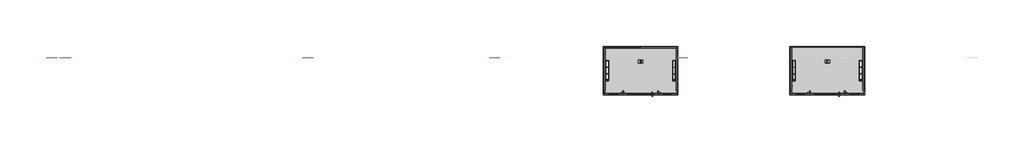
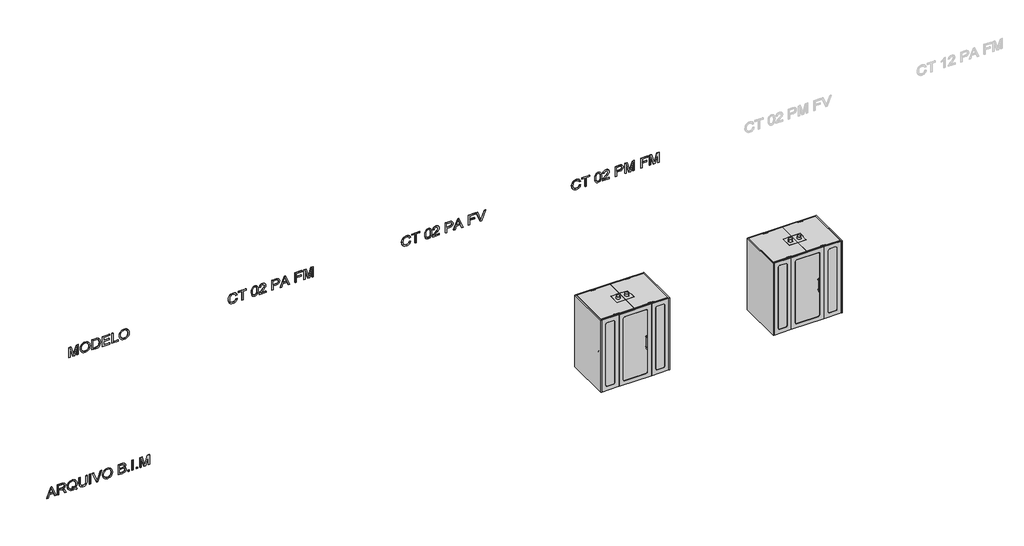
# One storey, part 1 of 2: 5 proxies, 2 furniture elements.
"""IFC4 building model written with IfcOpenShell, lengths in millimetres."""

from ifc_helpers import new_model, si_unit, frame, origin, place, context, project, spatial, polyline, outline, extrude, transform, mapped, element, save
from components import furniture_7d49e289, furniture_7776b8a0, furniture_499643ce, furniture_b8f9ac97

model = new_model("IFC4")

# Units and contexts
model_context = context("Model", 3, world=origin())
ifc_project = project(units=[si_unit("LENGTHUNIT", "METRE", prefix="MILLI")], contexts=[model_context])

# Site, building, storey
site = spatial("IfcSite", under=ifc_project)
building = spatial("IfcBuilding", under=site)
storey = spatial("IfcBuildingStorey", under=building, Name="02 - Marelli - Planta Baixa - Cabine 02 Pessoas", Elevation=-12000.0)

# Proxies
placement = place(None, origin())
element("IfcBuildingElementProxy", 1, Name="300mm Arial", ObjectType="300mm Arial", at=placement, inside=storey, context=model_context, shape_type="SweptSolid", body=[
    extrude(outline(polyline([(-10400.0, -7636.3146377), (-10400.0, -7596.5098058), (-10305.8222092, -7562.076051), (-10305.8222092, -7437.9526659), (-10400.0, -7403.4453347), (-10400.0, -7363.6405028), (-10098.6310696, -7483.9379153), (-10098.6310696, -7516.0172252), (-10400.0, -7636.3146377)]), holes=[polyline([(-10268.1510929, -7548.243688), (-10187.584936, -7518.739552), (-10136.3021859, -7499.9775703), (-10194.0596591, -7478.8611437), (-10268.1510929, -7451.7114525), (-10268.1510929, -7548.243688)])]), frame((0.0, 8778.3159498, 0.0), z_axis=(0.0, 1.0, 0.0), x_axis=(0.0, 0.0, 1.0)), (0.0, 0.0, 1.0), 10.0),
    extrude(outline(polyline([(-10400.0, -7323.3942126), (-10400.0, -7285.7230963), (-10268.1510929, -7285.7230963), (-10268.1510929, -7240.2528817), (-10269.4754681, -7218.4006911), (-10276.649167, -7200.484838), (-10296.183701, -7180.582422), (-10337.5336372, -7152.2555084), (-10400.0, -7113.0392877), (-10400.0, -7069.2613303), (-10318.3301971, -7119.5140108), (-10279.5554348, -7150.0482164), (-10263.4422034, -7171.4589486), (-10253.4542072, -7134.3488523), (-10245.4389783, -7119.9669655), (-10235.4095954, -7108.3671864), (-10210.7982899, -7093.0540983), (-10181.1102129, -7087.9497357), (-10157.2438684, -7091.0307474), (-10135.5296337, -7100.2737825), (-10118.0184507, -7114.6763626), (-10106.7612616, -7133.2360093), (-10100.6636176, -7158.629064), (-10098.6310696, -7193.5318683), (-10098.6310696, -7323.3942126), (-10400.0, -7323.3942126)]), holes=[polyline([(-10230.4799766, -7285.7230963), (-10136.3021859, -7285.7230963), (-10136.3021859, -7191.9131875), (-10139.5579415, -7162.1055488), (-10149.3252085, -7141.5501423), (-10164.1324588, -7129.6031746), (-10182.5081645, -7125.620852), (-10195.8162956, -7127.7085823), (-10208.0759631, -7133.9717732), (-10218.2111121, -7144.254075), (-10225.1456877, -7158.3991377), (-10229.1464044, -7177.1887106), (-10230.4799766, -7201.404543), (-10230.4799766, -7285.7230963)])]), frame((0.0, 8778.3159498, 0.0), z_axis=(0.0, 1.0, 0.0), x_axis=(0.0, 0.0, 1.0)), (0.0, 0.0, 1.0), 10.0),
    extrude(outline(polyline([(-10363.8739881, -6795.6307023), (-10340.3479345, -6777.1814202), (-10313.0326963, -6764.0664271), (-10281.9650618, -6756.2305406), (-10247.1818192, -6753.6185784), (-10205.3536364, -6757.9227978), (-10168.0136138, -6770.8354558), (-10136.8172207, -6791.9610794), (-10113.4199258, -6820.9041954), (-10098.7966164, -6855.7702114), (-10093.92218, -6894.6645354), (-10098.6862519, -6933.2553567), (-10112.9784674, -6967.9466288), (-10136.3849593, -6996.93573), (-10168.4918604, -7018.4200386), (-10206.944726, -7031.7189727), (-10249.3891112, -7036.1519507), (-10291.7967082, -7031.7097756), (-10329.6977507, -7018.3832504), (-10361.3539964, -6996.8161684), (-10385.0272028, -6967.6523232), (-10399.7884679, -6932.8322924), (-10404.7088895, -6894.2966534), (-10400.4414584, -6855.9449554), (-10387.639165, -6821.0881364), (-10408.47968, -6790.1308665), (-10422.8822601, -6759.063232), (-10395.2911105, -6748.9096889), (-10382.4704229, -6771.2953083), (-10363.8739881, -6795.6307023)]), holes=[polyline([(-10313.7684603, -6883.9223811), (-10342.6104088, -6893.6344658), (-10349.287467, -6873.2721974), (-10359.3122513, -6853.9767867), (-10365.1063928, -6873.6032912), (-10367.0377732, -6894.5173826), (-10365.1362832, -6916.2385151), (-10359.431813, -6935.9316982), (-10349.9243627, -6953.5969318), (-10336.6139322, -6969.2342158), (-10319.748842, -6982.0296115), (-10299.5774124, -6991.1691798), (-10276.0996433, -6996.6529208), (-10249.3155348, -6998.4808344), (-10221.8140564, -6996.6322274), (-10197.9500112, -6991.0864063), (-10177.7233993, -6981.8433712), (-10161.1342205, -6968.903122), (-10148.2100662, -6953.1577726), (-10138.9785274, -6935.4994369), (-10133.4396041, -6915.9281147), (-10131.5932963, -6894.4438062), (-10135.2445251, -6865.9605427), (-10146.1982115, -6840.4019411), (-10163.7645768, -6819.2027411), (-10187.2538422, -6803.7976826), (-10215.9394408, -6794.4166917), (-10249.0948056, -6791.2896947), (-10278.2678478, -6793.5015852), (-10303.5413409, -6800.1372567), (-10324.9152848, -6811.1967092), (-10342.3896796, -6826.6799427), (-10325.7430193, -6852.2477413), (-10313.7684603, -6883.9223811)])]), frame((0.0, 8778.3159498, 0.0), z_axis=(0.0, 1.0, 0.0), x_axis=(0.0, 0.0, 1.0)), (0.0, 0.0, 1.0), 10.0),
    extrude(outline(polyline([(-10098.6310696, -6499.3385434), (-10271.1677253, -6499.3385434), (-10318.3301971, -6504.1026152), (-10335.0688279, -6510.057705), (-10347.2457219, -6518.3948307), (-10355.9047444, -6529.5278596), (-10362.0897604, -6543.8706589), (-10367.0377732, -6582.1855687), (-10364.5361757, -6606.3554158), (-10357.031383, -6626.4785609), (-10344.9188683, -6641.9112106), (-10328.5941047, -6652.0095714), (-10305.0220659, -6657.5829836), (-10271.1677253, -6659.4407877), (-10098.6310696, -6659.4407877), (-10098.6310696, -6697.111904), (-10272.4921005, -6697.111904), (-10315.2675795, -6694.2516215), (-10347.9446977, -6685.6707739), (-10372.3076828, -6670.4036711), (-10390.1407625, -6647.4846228), (-10401.0668578, -6616.904432), (-10404.7088895, -6578.6539015), (-10400.5242318, -6539.5480454), (-10387.9702588, -6508.7563224), (-10368.7484245, -6486.2235502), (-10344.5601833, -6471.8945465), (-10313.2074403, -6464.2242069), (-10272.4921005, -6461.6674271), (-10098.6310696, -6461.6674271), (-10098.6310696, -6499.3385434)])), frame((0.0, 8778.3159498, 0.0), z_axis=(0.0, 1.0, 0.0), x_axis=(0.0, 0.0, 1.0)), (0.0, 0.0, 1.0), 10.0),
    extrude(outline(polyline([(-6353.3629677, 8778.3159498), (-6391.034084, 8778.3159498), (-6391.034084, 8788.3159498), (-6353.3629677, 8788.3159498), (-6353.3629677, 8778.3159498)])), frame((0.0, 0.0, -10400.0), z_axis=(0.0, 0.0, 1.0), x_axis=(1.0, 0.0, 0.0)), (0.0, 0.0, 1.0), 301.3689304),
    extrude(outline(polyline([(-10400.0, -6188.9932922), (-10400.0, -6150.0713771), (-10098.6310696, -6035.2186183), (-10098.6310696, -6075.5384849), (-10315.7550231, -6156.0310655), (-10364.6833285, -6172.0707205), (-10315.7550231, -6188.3311046), (-10098.6310696, -6268.602956), (-10098.6310696, -6308.9228227), (-10400.0, -6188.9932922)])), frame((0.0, 8778.3159498, 0.0), z_axis=(0.0, 1.0, 0.0), x_axis=(0.0, 0.0, 1.0)), (0.0, 0.0, 1.0), 10.0),
    extrude(outline(polyline([(-10253.2886603, -6014.3229209), (-10291.8334964, -6010.0187016), (-10328.2997991, -5997.1060436), (-10359.992833, -5975.8424642), (-10384.2178624, -5946.485481), (-10399.5861328, -5910.8377157), (-10404.7088895, -5870.70179), (-10400.0735764, -5832.892718), (-10386.167637, -5797.7507904), (-10363.2485887, -5767.7868019), (-10331.5739489, -5745.5115471), (-10293.1118863, -5731.6883811), (-10249.8305696, -5727.0806591), (-10207.1194699, -5731.4584548), (-10169.1908362, -5744.5918421), (-10137.5713787, -5766.0761506), (-10113.7878078, -5795.5067102), (-10098.8885869, -5830.9521404), (-10093.92218, -5870.4810608), (-10096.5663319, -5900.7715446), (-10104.4987874, -5928.1465636), (-10117.7195466, -5952.6061177), (-10136.2286095, -5974.1502071), (-10159.4097737, -5991.7257694), (-10186.6468369, -6004.2797425), (-10217.9397991, -6011.8121263), (-10253.2886603, -6014.3229209)]), holes=[polyline([(-10253.6565423, -5976.6518046), (-10223.1200375, -5974.6882345), (-10197.2878236, -5968.797524), (-10176.1599008, -5958.9796733), (-10159.736269, -5945.2346822), (-10147.4237184, -5928.7673644), (-10138.6290395, -5910.7825334), (-10133.3522321, -5891.2801891), (-10131.5932963, -5870.2603316), (-10135.2445251, -5841.0964864), (-10146.1982115, -5814.9676677), (-10163.7921679, -5793.3086153), (-10187.3642068, -5777.5540688), (-10216.1877611, -5767.9523488), (-10249.536264, -5764.7517754), (-10276.0743514, -5766.6210758), (-10299.4026684, -5772.228977), (-10319.521215, -5781.5754789), (-10336.4299912, -5794.6605816), (-10349.8208959, -5810.642755), (-10359.3858277, -5828.6804691), (-10365.1247869, -5848.7737238), (-10367.0377732, -5870.9225192), (-10365.143181, -5892.6988341), (-10359.4594041, -5912.557564), (-10349.9864428, -5930.4987091), (-10336.7242968, -5946.5222692), (-10320.1650085, -5959.703941), (-10300.80062, -5969.1194208), (-10278.6311313, -5974.7687087), (-10253.6565423, -5976.6518046)])]), frame((0.0, 8778.3159498, 0.0), z_axis=(0.0, 1.0, 0.0), x_axis=(0.0, 0.0, 1.0)), (0.0, 0.0, 1.0), 10.0),
    extrude(outline(polyline([(-10400.0, -5557.5606357), (-10400.0, -5443.4436408), (-10394.8128639, -5395.1407348), (-10388.3933231, -5377.10532), (-10379.5089729, -5362.3624491), (-10367.2401083, -5350.3235108), (-10350.6670244, -5340.399894), (-10331.1784758, -5333.7504269), (-10310.1632168, -5331.5339379), (-10284.944906, -5334.7804965), (-10263.2950506, -5344.5201723), (-10246.3356906, -5360.2931129), (-10235.1888662, -5381.6394656), (-10223.4442335, -5363.7695977), (-10208.5174215, -5351.0684718), (-10191.456894, -5343.4809057), (-10173.3111146, -5340.951717), (-10153.5926396, -5343.9591523), (-10134.7570815, -5352.9814582), (-10118.7450176, -5367.3104619), (-10107.4970256, -5386.2379906), (-10100.8475586, -5410.9320695), (-10098.6310696, -5442.560724), (-10098.6310696, -5557.5606357), (-10400.0, -5557.5606357)]), holes=[polyline([(-10221.0621975, -5519.8895194), (-10136.3021859, -5519.8895194), (-10136.3021859, -5456.3195106), (-10140.2385232, -5407.9062401), (-10145.8395266, -5395.4166463), (-10154.769862, -5386.2012024), (-10166.2109921, -5380.5174255), (-10179.3443793, -5378.6228333), (-10192.8732397, -5380.6553813), (-10203.8821084, -5386.7530254), (-10212.2422267, -5396.8605832), (-10217.824836, -5410.9228724), (-10221.0621975, -5451.0955863), (-10221.0621975, -5519.8895194)]), polyline([(-10362.3288837, -5519.8895194), (-10258.7333139, -5519.8895194), (-10258.7333139, -5446.3131204), (-10259.9933097, -5419.4853259), (-10263.7732972, -5399.776048), (-10270.6618875, -5385.8609115), (-10281.247692, -5376.4155413), (-10294.7857494, -5371.007676), (-10310.5310988, -5369.2050542), (-10324.0875503, -5370.7409615), (-10335.9149564, -5375.3486835), (-10352.6535872, -5391.0204565), (-10360.8573557, -5414.6752688), (-10362.3288837, -5442.6343004), (-10362.3288837, -5519.8895194)])]), frame((0.0, 8778.3159498, 0.0), z_axis=(0.0, 1.0, 0.0), x_axis=(0.0, 0.0, 1.0)), (0.0, 0.0, 1.0), 10.0),
    extrude(outline(polyline([(-5237.3561471, 8778.3159498), (-5275.0272634, 8778.3159498), (-5275.0272634, 8788.3159498), (-5237.3561471, 8788.3159498), (-5237.3561471, 8778.3159498)])), frame((0.0, 0.0, -10400.0), z_axis=(0.0, 0.0, 1.0), x_axis=(1.0, 0.0, 0.0)), (0.0, 0.0, 1.0), 37.6711163),
    extrude(outline(polyline([(-5119.6339087, 8778.3159498), (-5157.305025, 8778.3159498), (-5157.305025, 8788.3159498), (-5119.6339087, 8788.3159498), (-5119.6339087, 8778.3159498)])), frame((0.0, 0.0, -10400.0), z_axis=(0.0, 0.0, 1.0), x_axis=(1.0, 0.0, 0.0)), (0.0, 0.0, 1.0), 301.3689304),
    extrude(outline(polyline([(-5001.9116702, 8778.3159498), (-5039.5827865, 8778.3159498), (-5039.5827865, 8788.3159498), (-5001.9116702, 8788.3159498), (-5001.9116702, 8778.3159498)])), frame((0.0, 0.0, -10400.0), z_axis=(0.0, 0.0, 1.0), x_axis=(1.0, 0.0, 0.0)), (0.0, 0.0, 1.0), 37.6711163),
    extrude(outline(polyline([(-10400.0, -4926.5694376), (-10400.0, -4888.8983213), (-10136.3021859, -4888.8983213), (-10400.0, -4813.1882067), (-10400.0, -4762.1261857), (-10136.3021859, -4686.4160711), (-10400.0, -4686.4160711), (-10400.0, -4648.7449548), (-10098.6310696, -4648.7449548), (-10098.6310696, -4713.5657624), (-10307.3673136, -4774.1927152), (-10355.4127022, -4787.6571962), (-10311.0461336, -4800.0916076), (-10098.6310696, -4861.74863), (-10098.6310696, -4926.5694376), (-10400.0, -4926.5694376)])), frame((0.0, 8778.3159498, 0.0), z_axis=(0.0, 1.0, 0.0), x_axis=(0.0, 0.0, 1.0)), (0.0, 0.0, 1.0), 10.0),
])
element("IfcBuildingElementProxy", 2, Name="300mm Arial", ObjectType="300mm Arial", at=placement, inside=storey, context=model_context, shape_type="SweptSolid", body=[
    extrude(outline(polyline([(-6300.0, -6993.7719449), (-6300.0, -6956.1008286), (-6036.3021859, -6956.1008286), (-6300.0, -6880.390714), (-6300.0, -6829.328693), (-6036.3021859, -6753.6185784), (-6300.0, -6753.6185784), (-6300.0, -6715.9474621), (-5998.6310696, -6715.9474621), (-5998.6310696, -6780.7682697), (-6207.3673136, -6841.3952225), (-6255.4127022, -6854.8597035), (-6211.0461336, -6867.2941149), (-5998.6310696, -6928.9511373), (-5998.6310696, -6993.7719449), (-6300.0, -6993.7719449)])), frame((0.0, 8778.3159498, 0.0), z_axis=(0.0, 1.0, 0.0), x_axis=(0.0, 0.0, 1.0)), (0.0, 0.0, 1.0), 10.0),
    extrude(outline(polyline([(-6153.2886603, -6664.1496772), (-6191.8334964, -6659.8454579), (-6228.2997991, -6646.9327998), (-6259.992833, -6625.6692205), (-6284.2178624, -6596.3122373), (-6299.5861328, -6560.664472), (-6304.7088895, -6520.5285463), (-6300.0735764, -6482.7194742), (-6286.167637, -6447.5775466), (-6263.2485887, -6417.6135581), (-6231.5739489, -6395.3383033), (-6193.1118863, -6381.5151374), (-6149.8305696, -6376.9074154), (-6107.1194699, -6381.2852111), (-6069.1908362, -6394.4185983), (-6037.5713787, -6415.9029069), (-6013.7878078, -6445.3334665), (-5998.8885869, -6480.7788967), (-5993.92218, -6520.3078171), (-5996.5663319, -6550.5983009), (-6004.4987874, -6577.9733198), (-6017.7195466, -6602.432874), (-6036.2286095, -6623.9769633), (-6059.4097737, -6641.5525257), (-6086.6468369, -6654.1064987), (-6117.9397991, -6661.6388826), (-6153.2886603, -6664.1496772)]), holes=[polyline([(-6153.6565423, -6626.4785609), (-6123.1200375, -6624.5149908), (-6097.2878236, -6618.6242803), (-6076.1599008, -6608.8064296), (-6059.736269, -6595.0614385), (-6047.4237184, -6578.5941207), (-6038.6290395, -6560.6092897), (-6033.3522321, -6541.1069454), (-6031.5932963, -6520.0870879), (-6035.2445251, -6490.9232427), (-6046.1982115, -6464.794424), (-6063.7921679, -6443.1353716), (-6087.3642068, -6427.3808251), (-6116.1877611, -6417.779105), (-6149.536264, -6414.5785317), (-6176.0743514, -6416.4478321), (-6199.4026684, -6422.0557332), (-6219.521215, -6431.4022352), (-6236.4299912, -6444.4873379), (-6249.8208959, -6460.4695113), (-6259.3858277, -6478.5072254), (-6265.1247869, -6498.6004801), (-6267.0377732, -6520.7492755), (-6265.143181, -6542.5255903), (-6259.4594041, -6562.3843203), (-6249.9864428, -6580.3254653), (-6236.7242968, -6596.3490255), (-6220.1650085, -6609.5306972), (-6200.80062, -6618.9461771), (-6178.6311313, -6624.5954649), (-6153.6565423, -6626.4785609)])]), frame((0.0, 8778.3159498, 0.0), z_axis=(0.0, 1.0, 0.0), x_axis=(0.0, 0.0, 1.0)), (0.0, 0.0, 1.0), 10.0),
    extrude(outline(polyline([(-6300.0, -6325.1096305), (-6300.0, -6216.1429835), (-6294.8496521, -6167.6929247), (-6288.4944906, -6148.1491937), (-6279.7297021, -6131.6772774), (-6267.911493, -6117.3298796), (-6252.3960698, -6104.1597042), (-6232.7419742, -6092.7185741), (-6208.5077478, -6083.5583124), (-6180.0428784, -6077.5434418), (-6147.696854, -6075.5384849), (-6109.6210675, -6078.499935), (-6076.0334413, -6087.3842852), (-6047.4857985, -6102.2283237), (-6024.529962, -6123.0688387), (-6011.3413925, -6143.3391366), (-6002.9720771, -6167.3618309), (-5998.6310696, -6221.1461786), (-5998.6310696, -6325.1096305), (-6300.0, -6325.1096305)]), holes=[polyline([(-6262.3288837, -6287.4385141), (-6036.3021859, -6287.4385141), (-6036.3021859, -6221.8083662), (-6037.810502, -6190.06015), (-6042.3354506, -6168.3919005), (-6054.9170148, -6147.10073), (-6075.7391357, -6129.2860444), (-6106.0526121, -6117.228712), (-6147.1082428, -6113.2096012), (-6178.0931038, -6115.2605434), (-6204.0931639, -6121.4133697), (-6225.2003933, -6131.245016), (-6241.5067628, -6144.332418), (-6250.3175366, -6156.5093121), (-6256.8842302, -6172.2914497), (-6260.9677203, -6193.2055411), (-6262.3288837, -6220.7782966), (-6262.3288837, -6287.4385141)])]), frame((0.0, 8778.3159498, 0.0), z_axis=(0.0, 1.0, 0.0), x_axis=(0.0, 0.0, 1.0)), (0.0, 0.0, 1.0), 10.0),
    extrude(outline(polyline([(-6300.0, -6023.7407), (-6300.0, -5802.4228917), (-6262.3288837, -5802.4228917), (-6262.3288837, -5986.0695837), (-6163.4422034, -5986.0695837), (-6163.4422034, -5816.5495603), (-6125.7710871, -5816.5495603), (-6125.7710871, -5986.0695837), (-6036.3021859, -5986.0695837), (-6036.3021859, -5807.1317812), (-5998.6310696, -5807.1317812), (-5998.6310696, -6023.7407), (-6300.0, -6023.7407)])), frame((0.0, 8778.3159498, 0.0), z_axis=(0.0, 1.0, 0.0), x_axis=(0.0, 0.0, 1.0)), (0.0, 0.0, 1.0), 10.0),
    extrude(outline(polyline([(-6300.0, -5745.9162172), (-6300.0, -5557.5606357), (-6262.3288837, -5557.5606357), (-6262.3288837, -5708.2451009), (-5998.6310696, -5708.2451009), (-5998.6310696, -5745.9162172), (-6300.0, -5745.9162172)])), frame((0.0, 8778.3159498, 0.0), z_axis=(0.0, 1.0, 0.0), x_axis=(0.0, 0.0, 1.0)), (0.0, 0.0, 1.0), 10.0),
    extrude(outline(polyline([(-6153.2886603, -5529.3072985), (-6191.8334964, -5525.0030791), (-6228.2997991, -5512.0904211), (-6259.992833, -5490.8268418), (-6284.2178624, -5461.4698586), (-6299.5861328, -5425.8220932), (-6304.7088895, -5385.6861676), (-6300.0735764, -5347.8770955), (-6286.167637, -5312.7351679), (-6263.2485887, -5282.7711794), (-6231.5739489, -5260.4959246), (-6193.1118863, -5246.6727586), (-6149.8305696, -5242.0650367), (-6107.1194699, -5246.4428324), (-6069.1908362, -5259.5762196), (-6037.5713787, -5281.0605281), (-6013.7878078, -5310.4910878), (-5998.8885869, -5345.936518), (-5993.92218, -5385.4654384), (-5996.5663319, -5415.7559222), (-6004.4987874, -5443.1309411), (-6017.7195466, -5467.5904953), (-6036.2286095, -5489.1345846), (-6059.4097737, -5506.7101469), (-6086.6468369, -5519.26412), (-6117.9397991, -5526.7965039), (-6153.2886603, -5529.3072985)]), holes=[polyline([(-6153.6565423, -5491.6361822), (-6123.1200375, -5489.672612), (-6097.2878236, -5483.7819016), (-6076.1599008, -5473.9640508), (-6059.736269, -5460.2190598), (-6047.4237184, -5443.751742), (-6038.6290395, -5425.7669109), (-6033.3522321, -5406.2645667), (-6031.5932963, -5385.2447092), (-6035.2445251, -5356.080864), (-6046.1982115, -5329.9520453), (-6063.7921679, -5308.2929928), (-6087.3642068, -5292.5384464), (-6116.1877611, -5282.9367263), (-6149.536264, -5279.736153), (-6176.0743514, -5281.6054533), (-6199.4026684, -5287.2133545), (-6219.521215, -5296.5598565), (-6236.4299912, -5309.6449592), (-6249.8208959, -5325.6271326), (-6259.3858277, -5343.6648467), (-6265.1247869, -5363.7581014), (-6267.0377732, -5385.9068968), (-6265.143181, -5407.6832116), (-6259.4594041, -5427.5419416), (-6249.9864428, -5445.4830866), (-6236.7242968, -5461.5066468), (-6220.1650085, -5474.6883185), (-6200.80062, -5484.1037983), (-6178.6311313, -5489.7530862), (-6153.6565423, -5491.6361822)])]), frame((0.0, 8778.3159498, 0.0), z_axis=(0.0, 1.0, 0.0), x_axis=(0.0, 0.0, 1.0)), (0.0, 0.0, 1.0), 10.0),
])
element("IfcBuildingElementProxy", 3, Name="300mm Arial", ObjectType="300mm Arial", at=placement, inside=storey, context=model_context, shape_type="SweptSolid", body=[
    extrude(outline(polyline([(-6192.872763, -2142.1019653), (-6225.136014, -2154.2880564), (-6248.3493679, -2174.0709107), (-6262.3656719, -2200.2733058), (-6267.0377732, -2231.7180194), (-6263.6072736, -2258.6929667), (-6253.3157748, -2283.6997453), (-6236.0897004, -2304.5586544), (-6211.855474, -2319.0899932), (-6181.7627268, -2327.6156585), (-6146.96109, -2330.4575469), (-6118.5422059, -2328.0571169), (-6090.9694503, -2320.8558268), (-6066.5788741, -2307.7316366), (-6047.7065277, -2287.5625062), (-6035.6216042, -2260.9830321), (-6031.5932963, -2228.6278106), (-6035.226131, -2200.5584144), (-6046.1246351, -2177.7129425), (-6064.9693903, -2159.8706657), (-6092.4409783, -2146.8108549), (-6083.4646576, -2109.1397386), (-6045.6463885, -2125.7772018), (-6030.3241034, -2137.5793161), (-6017.3930513, -2151.7036854), (-6007.1245451, -2167.8835954), (-5999.7898978, -2185.8523316), (-5993.92218, -2227.1562826), (-5998.4563256, -2265.0113399), (-6012.0587624, -2299.5554593), (-6034.3983965, -2328.6825162), (-6065.1441343, -2350.2863864), (-6103.0911621, -2363.668094), (-6147.0346664, -2368.1286632), (-6188.6973024, -2364.1831288), (-6227.6008233, -2352.3465256), (-6260.6918088, -2332.9591444), (-6284.9168382, -2306.3612762), (-6299.7608767, -2271.660807), (-6304.7088895, -2227.965623), (-6303.0741139, -2205.5432154), (-6298.1697871, -2184.9234296), (-6289.995909, -2166.1062655), (-6278.5524797, -2149.0917233), (-6263.995849, -2134.2154951), (-6246.4823668, -2121.8132733), (-6226.012033, -2111.885058), (-6202.5848477, -2104.430849), (-6192.872763, -2142.1019653)])), frame((0.0, 8778.3159498, 0.0), z_axis=(0.0, 1.0, 0.0), x_axis=(0.0, 0.0, 1.0)), (0.0, 0.0, 1.0), 10.0),
    extrude(outline(polyline([(-6300.0, -1977.2908315), (-6300.0, -1939.6197152), (-6036.3021859, -1939.6197152), (-6036.3021859, -1840.7330349), (-5998.6310696, -1840.7330349), (-5998.6310696, -2076.1775118), (-6036.3021859, -2076.1775118), (-6036.3021859, -1977.2908315), (-6300.0, -1977.2908315)])), frame((0.0, 8778.3159498, 0.0), z_axis=(0.0, 1.0, 0.0), x_axis=(0.0, 0.0, 1.0)), (0.0, 0.0, 1.0), 10.0),
    extrude(outline(polyline([(-6151.7435559, -1694.7574592), (-6191.1851044, -1692.881261), (-6225.0440435, -1687.2526665), (-6253.3203733, -1677.8716756), (-6276.0140939, -1664.7382884), (-6288.568067, -1651.0530782), (-6297.5351906, -1635.0134232), (-6302.9154648, -1616.6193234), (-6304.7088895, -1595.8707789), (-6300.5794141, -1565.4193468), (-6288.190988, -1540.7252678), (-6267.4056552, -1521.6229952), (-6238.0854602, -1507.9469821), (-6199.7061711, -1499.7248195), (-6151.7435559, -1496.9840986), (-6111.7823742, -1498.6947499), (-6080.9262719, -1503.8267037), (-6056.6276661, -1511.6625902), (-6036.3389741, -1521.4850395), (-6020.1981515, -1534.489668), (-6008.3431542, -1551.8720923), (-6001.0590907, -1572.657425), (-5998.6310696, -1595.8707789), (-6002.7329538, -1626.1566642), (-6015.0386065, -1650.7955608), (-6035.7411658, -1669.9254245), (-6065.0337697, -1683.6842112), (-6103.5050293, -1691.9891472), (-6151.7435559, -1694.7574592)]), holes=[polyline([(-6151.6699795, -1657.0863429), (-6093.1767423, -1652.5246062), (-6072.097104, -1646.8224352), (-6056.4621192, -1638.8393959), (-6041.3421692, -1619.8934732), (-6036.3021859, -1596.3122373), (-6042.0227509, -1571.4066262), (-6059.184446, -1551.7249395), (-6073.5456393, -1544.256935), (-6093.7469594, -1538.9226461), (-6151.6699795, -1534.6552149), (-6210.8346014, -1539.0697988), (-6231.0980016, -1544.5880288), (-6245.1487945, -1552.3135507), (-6261.5655286, -1572.0320256), (-6267.0377732, -1595.8707789), (-6261.5839227, -1619.7095322), (-6245.2223709, -1639.4280071), (-6231.1945706, -1647.153529), (-6210.9265719, -1652.671759), (-6151.6699795, -1657.0863429)])]), frame((0.0, 8778.3159498, 0.0), z_axis=(0.0, 1.0, 0.0), x_axis=(0.0, 0.0, 1.0)), (0.0, 0.0, 1.0), 10.0),
    extrude(outline(polyline([(-6262.3288837, -1270.9574008), (-6262.3288837, -1418.9195392), (-6243.1622317, -1401.923391), (-6206.9258552, -1358.586892), (-6177.9091629, -1325.8913797), (-6155.3120113, -1304.6186033), (-6136.3844826, -1291.2736839), (-6118.376659, -1282.3617426), (-6100.672338, -1277.3401534), (-6082.6553172, -1275.6662903), (-6065.5028192, -1277.2182925), (-6049.8034551, -1281.874299), (-6035.5572248, -1289.6343098), (-6022.7641284, -1300.498325), (-6012.2059152, -1314.0248861), (-6004.6643343, -1329.7725347), (-6000.1393857, -1347.7412709), (-5998.6310696, -1367.9310947), (-6004.057329, -1405.8137431), (-6010.8401533, -1421.5475962), (-6020.3361073, -1435.1431352), (-6032.4164323, -1446.3428427), (-6046.9523696, -1454.8892013), (-6083.3910812, -1464.0218718), (-6088.0999708, -1426.3507555), (-6066.4501154, -1422.2764624), (-6050.0609725, -1410.4950415), (-6039.7418825, -1392.2388975), (-6036.3021859, -1368.7404351), (-6039.824656, -1346.3640127), (-6050.3920663, -1328.6780858), (-6066.0730363, -1317.1725764), (-6084.9361856, -1313.3374066), (-6105.9790357, -1317.4025027), (-6127.6104971, -1329.5977908), (-6154.2635476, -1353.9883671), (-6190.3711654, -1394.6393275), (-6213.4281695, -1422.1385067), (-6234.0387583, -1441.8017993), (-6253.7296421, -1455.395039), (-6274.0275311, -1464.6840594), (-6300.0, -1468.7307614), (-6300.0, -1270.9574008), (-6262.3288837, -1270.9574008)])), frame((0.0, 8778.3159498, 0.0), z_axis=(0.0, 1.0, 0.0), x_axis=(0.0, 0.0, 1.0)), (0.0, 0.0, 1.0), 10.0),
    extrude(outline(polyline([(-6300.0, -1101.4373774), (-6300.0, -1063.7662611), (-6177.568872, -1063.7662611), (-6177.568872, -987.1732297), (-6175.904206, -957.9748956), (-6170.9102079, -933.6555964), (-6162.5868778, -914.2153323), (-6150.9342156, -899.654103), (-6136.8765248, -889.0476053), (-6121.338109, -881.4715354), (-6104.3189682, -876.9258935), (-6085.8191024, -875.4106796), (-6064.362385, -877.6547597), (-6044.7266835, -884.3870002), (-6028.0800233, -894.8072577), (-6015.5904295, -908.1153889), (-6006.8624292, -924.6424876), (-6001.5005491, -944.7196474), (-5998.6310696, -989.7484037), (-5998.6310696, -1101.4373774), (-6300.0, -1101.4373774)]), holes=[polyline([(-6139.8977557, -1063.7662611), (-6036.3021859, -1063.7662611), (-6036.3021859, -985.8488545), (-6038.8773598, -948.1777382), (-6045.2049301, -933.949902), (-6055.9470844, -922.7570923), (-6070.2209058, -915.50062), (-6087.1434776, -913.0817959), (-6109.4187324, -917.1836801), (-6126.0653927, -929.4893328), (-6136.4396649, -951.5622526), (-6139.8977557, -984.9659377), (-6139.8977557, -1063.7662611)])]), frame((0.0, 8778.3159498, 0.0), z_axis=(0.0, 1.0, 0.0), x_axis=(0.0, 0.0, 1.0)), (0.0, 0.0, 1.0), 10.0),
    extrude(outline(polyline([(-6300.0, -858.708837), (-6300.0, -818.9040051), (-6205.8222092, -784.4702503), (-6205.8222092, -660.3468652), (-6300.0, -625.839534), (-6300.0, -586.0347021), (-5998.6310696, -706.3321146), (-5998.6310696, -738.4114245), (-6300.0, -858.708837)]), holes=[polyline([(-6168.1510929, -770.6378873), (-6087.584936, -741.1337513), (-6036.3021859, -722.3717696), (-6094.0596591, -701.255343), (-6168.1510929, -674.1056518), (-6168.1510929, -770.6378873)])]), frame((0.0, 8778.3159498, 0.0), z_axis=(0.0, 1.0, 0.0), x_axis=(0.0, 0.0, 1.0)), (0.0, 0.0, 1.0), 10.0),
    extrude(outline(polyline([(-6300.0, -428.0661734), (-6300.0, -390.3950571), (-6163.4422034, -390.3950571), (-6163.4422034, -249.128371), (-6125.7710871, -249.128371), (-6125.7710871, -390.3950571), (-6036.3021859, -390.3950571), (-6036.3021859, -225.5839233), (-5998.6310696, -225.5839233), (-5998.6310696, -428.0661734), (-6300.0, -428.0661734)])), frame((0.0, 8778.3159498, 0.0), z_axis=(0.0, 1.0, 0.0), x_axis=(0.0, 0.0, 1.0)), (0.0, 0.0, 1.0), 10.0),
    extrude(outline(polyline([(-6300.0, -173.7861383), (-6300.0, -136.115022), (-6036.3021859, -136.115022), (-6300.0, -60.4049074), (-6300.0, -9.3428865), (-6036.3021859, 66.3672281), (-6300.0, 66.3672281), (-6300.0, 104.0383444), (-5998.6310696, 104.0383444), (-5998.6310696, 39.2175369), (-6207.3673136, -21.4094159), (-6255.4127022, -34.873897), (-6211.0461336, -47.3083084), (-5998.6310696, -108.9653308), (-5998.6310696, -173.7861383), (-6300.0, -173.7861383)])), frame((0.0, 8778.3159498, 0.0), z_axis=(0.0, 1.0, 0.0), x_axis=(0.0, 0.0, 1.0)), (0.0, 0.0, 1.0), 10.0),
])
element("IfcBuildingElementProxy", 4, Name="300mm Arial", ObjectType="300mm Arial", at=placement, inside=storey, context=model_context, shape_type="SweptSolid", body=[
    extrude(outline(polyline([(-6192.872763, 2890.8602614), (-6225.136014, 2878.6741703), (-6248.3493679, 2858.891316), (-6262.3656719, 2832.6889209), (-6267.0377732, 2801.2442074), (-6263.6072736, 2774.2692601), (-6253.3157748, 2749.2624815), (-6236.0897004, 2728.4035724), (-6211.855474, 2713.8722335), (-6181.7627268, 2705.3465683), (-6146.96109, 2702.5046799), (-6118.5422059, 2704.9051099), (-6090.9694503, 2712.1064), (-6066.5788741, 2725.2305901), (-6047.7065277, 2745.3997205), (-6035.6216042, 2771.9791947), (-6031.5932963, 2804.3344162), (-6035.226131, 2832.4038124), (-6046.1246351, 2855.2492843), (-6064.9693903, 2873.0915611), (-6092.4409783, 2886.1513719), (-6083.4646576, 2923.8224882), (-6045.6463885, 2907.185025), (-6030.3241034, 2895.3829107), (-6017.3930513, 2881.2585414), (-6007.1245451, 2865.0786314), (-5999.7898978, 2847.1098951), (-5993.92218, 2805.8059441), (-5998.4563256, 2767.9508868), (-6012.0587624, 2733.4067675), (-6034.3983965, 2704.2797105), (-6065.1441343, 2682.6758404), (-6103.0911621, 2669.2941328), (-6147.0346664, 2664.8335636), (-6188.6973024, 2668.779098), (-6227.6008233, 2680.6157012), (-6260.6918088, 2700.0030823), (-6284.9168382, 2726.6009506), (-6299.7608767, 2761.3014198), (-6304.7088895, 2804.9966038), (-6303.0741139, 2827.4190114), (-6298.1697871, 2848.0387972), (-6289.995909, 2866.8559612), (-6278.5524797, 2883.8705035), (-6263.995849, 2898.7467317), (-6246.4823668, 2911.1489535), (-6226.012033, 2921.0771688), (-6202.5848477, 2928.5313777), (-6192.872763, 2890.8602614)])), frame((0.0, 8778.3159498, 0.0), z_axis=(0.0, 1.0, 0.0), x_axis=(0.0, 0.0, 1.0)), (0.0, 0.0, 1.0), 10.0),
    extrude(outline(polyline([(-6300.0, 3055.6713953), (-6300.0, 3093.3425116), (-6036.3021859, 3093.3425116), (-6036.3021859, 3192.2291919), (-5998.6310696, 3192.2291919), (-5998.6310696, 2956.784715), (-6036.3021859, 2956.784715), (-6036.3021859, 3055.6713953), (-6300.0, 3055.6713953)])), frame((0.0, 8778.3159498, 0.0), z_axis=(0.0, 1.0, 0.0), x_axis=(0.0, 0.0, 1.0)), (0.0, 0.0, 1.0), 10.0),
    extrude(outline(polyline([(-6151.7435559, 3338.2047676), (-6191.1851044, 3340.0809657), (-6225.0440435, 3345.7095603), (-6253.3203733, 3355.0905511), (-6276.0140939, 3368.2239384), (-6288.568067, 3381.9091486), (-6297.5351906, 3397.9488036), (-6302.9154648, 3416.3429033), (-6304.7088895, 3437.0914479), (-6300.5794141, 3467.54288), (-6288.190988, 3492.2369589), (-6267.4056552, 3511.3392315), (-6238.0854602, 3525.0152447), (-6199.7061711, 3533.2374073), (-6151.7435559, 3535.9781282), (-6111.7823742, 3534.2674769), (-6080.9262719, 3529.1355231), (-6056.6276661, 3521.2996366), (-6036.3389741, 3511.4771873), (-6020.1981515, 3498.4725588), (-6008.3431542, 3481.0901345), (-6001.0590907, 3460.3048018), (-5998.6310696, 3437.0914479), (-6002.7329538, 3406.8055626), (-6015.0386065, 3382.166666), (-6035.7411658, 3363.0368022), (-6065.0337697, 3349.2780156), (-6103.5050293, 3340.9730796), (-6151.7435559, 3338.2047676)]), holes=[polyline([(-6151.6699795, 3375.8758839), (-6093.1767423, 3380.4376206), (-6072.097104, 3386.1397915), (-6056.4621192, 3394.1228308), (-6041.3421692, 3413.0687536), (-6036.3021859, 3436.6499895), (-6042.0227509, 3461.5556005), (-6059.184446, 3481.2372873), (-6073.5456393, 3488.7052918), (-6093.7469594, 3494.0395807), (-6151.6699795, 3498.3070119), (-6210.8346014, 3493.8924279), (-6231.0980016, 3488.374198), (-6245.1487945, 3480.6486761), (-6261.5655286, 3460.9302012), (-6267.0377732, 3437.0914479), (-6261.5839227, 3413.2526946), (-6245.2223709, 3393.5342196), (-6231.1945706, 3385.8086977), (-6210.9265719, 3380.2904678), (-6151.6699795, 3375.8758839)])]), frame((0.0, 8778.3159498, 0.0), z_axis=(0.0, 1.0, 0.0), x_axis=(0.0, 0.0, 1.0)), (0.0, 0.0, 1.0), 10.0),
    extrude(outline(polyline([(-6262.3288837, 3762.004826), (-6262.3288837, 3614.0426875), (-6243.1622317, 3631.0388357), (-6206.9258552, 3674.3753348), (-6177.9091629, 3707.0708471), (-6155.3120113, 3728.3436234), (-6136.3844826, 3741.6885428), (-6118.376659, 3750.6004842), (-6100.672338, 3755.6220734), (-6082.6553172, 3757.2959365), (-6065.5028192, 3755.7439343), (-6049.8034551, 3751.0879278), (-6035.5572248, 3743.327917), (-6022.7641284, 3732.4639018), (-6012.2059152, 3718.9373407), (-6004.6643343, 3703.189692), (-6000.1393857, 3685.2209558), (-5998.6310696, 3665.0311321), (-6004.057329, 3627.1484836), (-6010.8401533, 3611.4146305), (-6020.3361073, 3597.8190916), (-6032.4164323, 3586.6193841), (-6046.9523696, 3578.0730255), (-6083.3910812, 3568.9403549), (-6088.0999708, 3606.6114712), (-6066.4501154, 3610.6857643), (-6050.0609725, 3622.4671852), (-6039.7418825, 3640.7233292), (-6036.3021859, 3664.2217917), (-6039.824656, 3686.598214), (-6050.3920663, 3704.284141), (-6066.0730363, 3715.7896504), (-6084.9361856, 3719.6248202), (-6105.9790357, 3715.5597241), (-6127.6104971, 3703.364436), (-6154.2635476, 3678.9738597), (-6190.3711654, 3638.3228992), (-6213.4281695, 3610.8237201), (-6234.0387583, 3591.1604274), (-6253.7296421, 3577.5671877), (-6274.0275311, 3568.2781673), (-6300.0, 3564.2314654), (-6300.0, 3762.004826), (-6262.3288837, 3762.004826)])), frame((0.0, 8778.3159498, 0.0), z_axis=(0.0, 1.0, 0.0), x_axis=(0.0, 0.0, 1.0)), (0.0, 0.0, 1.0), 10.0),
    extrude(outline(polyline([(-6300.0, 3931.5248494), (-6300.0, 3969.1959657), (-6177.568872, 3969.1959657), (-6177.568872, 4045.7889971), (-6175.904206, 4074.9873312), (-6170.9102079, 4099.3066303), (-6162.5868778, 4118.7468945), (-6150.9342156, 4133.3081237), (-6136.8765248, 4143.9146215), (-6121.338109, 4151.4906913), (-6104.3189682, 4156.0363333), (-6085.8191024, 4157.5515472), (-6064.362385, 4155.307467), (-6044.7266835, 4148.5752265), (-6028.0800233, 4138.154969), (-6015.5904295, 4124.8468378), (-6006.8624292, 4108.3197392), (-6001.5005491, 4088.2425793), (-5998.6310696, 4043.2138231), (-5998.6310696, 3931.5248494), (-6300.0, 3931.5248494)]), holes=[polyline([(-6139.8977557, 3969.1959657), (-6036.3021859, 3969.1959657), (-6036.3021859, 4047.1133723), (-6038.8773598, 4084.7844886), (-6045.2049301, 4099.0123247), (-6055.9470844, 4110.2051344), (-6070.2209058, 4117.4616068), (-6087.1434776, 4119.8804309), (-6109.4187324, 4115.7785467), (-6126.0653927, 4103.4728939), (-6136.4396649, 4081.3999742), (-6139.8977557, 4047.9962891), (-6139.8977557, 3969.1959657)])]), frame((0.0, 8778.3159498, 0.0), z_axis=(0.0, 1.0, 0.0), x_axis=(0.0, 0.0, 1.0)), (0.0, 0.0, 1.0), 10.0),
    extrude(outline(polyline([(-6300.0, 4174.2533898), (-6300.0, 4214.0582217), (-6205.8222092, 4248.4919764), (-6205.8222092, 4372.6153616), (-6300.0, 4407.1226927), (-6300.0, 4446.9275246), (-5998.6310696, 4326.6301122), (-5998.6310696, 4294.5508022), (-6300.0, 4174.2533898)]), holes=[polyline([(-6168.1510929, 4262.3243394), (-6087.584936, 4291.8284755), (-6036.3021859, 4310.5904572), (-6094.0596591, 4331.7068837), (-6168.1510929, 4358.856575), (-6168.1510929, 4262.3243394)])]), frame((0.0, 8778.3159498, 0.0), z_axis=(0.0, 1.0, 0.0), x_axis=(0.0, 0.0, 1.0)), (0.0, 0.0, 1.0), 10.0),
    extrude(outline(polyline([(-6300.0, 4604.8960534), (-6300.0, 4642.5671697), (-6163.4422034, 4642.5671697), (-6163.4422034, 4783.8338558), (-6125.7710871, 4783.8338558), (-6125.7710871, 4642.5671697), (-6036.3021859, 4642.5671697), (-6036.3021859, 4807.3783035), (-5998.6310696, 4807.3783035), (-5998.6310696, 4604.8960534), (-6300.0, 4604.8960534)])), frame((0.0, 8778.3159498, 0.0), z_axis=(0.0, 1.0, 0.0), x_axis=(0.0, 0.0, 1.0)), (0.0, 0.0, 1.0), 10.0),
    extrude(outline(polyline([(-6300.0, 4948.2035313), (-6300.0, 4987.1254463), (-5998.6310696, 5101.9782052), (-5998.6310696, 5061.6583386), (-6215.7550231, 4981.165758), (-6264.6833285, 4965.126103), (-6215.7550231, 4948.8657188), (-5998.6310696, 4868.5938675), (-5998.6310696, 4828.2740008), (-6300.0, 4948.2035313)])), frame((0.0, 8778.3159498, 0.0), z_axis=(0.0, 1.0, 0.0), x_axis=(0.0, 0.0, 1.0)), (0.0, 0.0, 1.0), 10.0),
])
element("IfcBuildingElementProxy", 5, Name="300mm Arial", ObjectType="300mm Arial", at=placement, inside=storey, context=model_context, shape_type="SweptSolid", body=[
    extrude(outline(polyline([(-6192.872763, 7824.9358079), (-6225.136014, 7812.7497168), (-6248.3493679, 7792.9668625), (-6262.3656719, 7766.7644674), (-6267.0377732, 7735.3197539), (-6263.6072736, 7708.3448066), (-6253.3157748, 7683.3380279), (-6236.0897004, 7662.4791188), (-6211.855474, 7647.94778), (-6181.7627268, 7639.4221148), (-6146.96109, 7636.5802264), (-6118.5422059, 7638.9806564), (-6090.9694503, 7646.1819464), (-6066.5788741, 7659.3061366), (-6047.7065277, 7679.475267), (-6035.6216042, 7706.0547411), (-6031.5932963, 7738.4099626), (-6035.226131, 7766.4793589), (-6046.1246351, 7789.3248308), (-6064.9693903, 7807.1671075), (-6092.4409783, 7820.2269184), (-6083.4646576, 7857.8980347), (-6045.6463885, 7841.2605714), (-6030.3241034, 7829.4584572), (-6017.3930513, 7815.3340878), (-6007.1245451, 7799.1541778), (-5999.7898978, 7781.1854416), (-5993.92218, 7739.8814906), (-5998.4563256, 7702.0264333), (-6012.0587624, 7667.482314), (-6034.3983965, 7638.355257), (-6065.1441343, 7616.7513868), (-6103.0911621, 7603.3696792), (-6147.0346664, 7598.9091101), (-6188.6973024, 7602.8546445), (-6227.6008233, 7614.6912476), (-6260.6918088, 7634.0786288), (-6284.9168382, 7660.676497), (-6299.7608767, 7695.3769662), (-6304.7088895, 7739.0721502), (-6303.0741139, 7761.4945578), (-6298.1697871, 7782.1143437), (-6289.995909, 7800.9315077), (-6278.5524797, 7817.94605), (-6263.995849, 7832.8222782), (-6246.4823668, 7845.2244999), (-6226.012033, 7855.1527153), (-6202.5848477, 7862.6069242), (-6192.872763, 7824.9358079)])), frame((0.0, 8778.3159498, 0.0), z_axis=(0.0, 1.0, 0.0), x_axis=(0.0, 0.0, 1.0)), (0.0, 0.0, 1.0), 10.0),
    extrude(outline(polyline([(-6300.0, 7989.7469417), (-6300.0, 8027.418058), (-6036.3021859, 8027.418058), (-6036.3021859, 8126.3047383), (-5998.6310696, 8126.3047383), (-5998.6310696, 7890.8602614), (-6036.3021859, 7890.8602614), (-6036.3021859, 7989.7469417), (-6300.0, 7989.7469417)])), frame((0.0, 8778.3159498, 0.0), z_axis=(0.0, 1.0, 0.0), x_axis=(0.0, 0.0, 1.0)), (0.0, 0.0, 1.0), 10.0),
    extrude(outline(polyline([(-6151.7435559, 8272.280314), (-6191.1851044, 8274.1565122), (-6225.0440435, 8279.7851067), (-6253.3203733, 8289.1660976), (-6276.0140939, 8302.2994848), (-6288.568067, 8315.9846951), (-6297.5351906, 8332.02435), (-6302.9154648, 8350.4184498), (-6304.7088895, 8371.1669943), (-6300.5794141, 8401.6184265), (-6288.190988, 8426.3125054), (-6267.4056552, 8445.414778), (-6238.0854602, 8459.0907912), (-6199.7061711, 8467.3129538), (-6151.7435559, 8470.0536746), (-6111.7823742, 8468.3430234), (-6080.9262719, 8463.2110695), (-6056.6276661, 8455.375183), (-6036.3389741, 8445.5527338), (-6020.1981515, 8432.5481052), (-6008.3431542, 8415.165681), (-6001.0590907, 8394.3803482), (-5998.6310696, 8371.1669943), (-6002.7329538, 8340.8811091), (-6015.0386065, 8316.2422124), (-6035.7411658, 8297.1123487), (-6065.0337697, 8283.3535621), (-6103.5050293, 8275.048626), (-6151.7435559, 8272.280314)]), holes=[polyline([(-6151.6699795, 8309.9514303), (-6093.1767423, 8314.5131671), (-6072.097104, 8320.215338), (-6056.4621192, 8328.1983773), (-6041.3421692, 8347.1443), (-6036.3021859, 8370.7255359), (-6042.0227509, 8395.631147), (-6059.184446, 8415.3128337), (-6073.5456393, 8422.7808383), (-6093.7469594, 8428.1151272), (-6151.6699795, 8432.3825583), (-6210.8346014, 8427.9679744), (-6231.0980016, 8422.4497445), (-6245.1487945, 8414.7242226), (-6261.5655286, 8395.0057476), (-6267.0377732, 8371.1669943), (-6261.5839227, 8347.328241), (-6245.2223709, 8327.6097661), (-6231.1945706, 8319.8842442), (-6210.9265719, 8314.3660143), (-6151.6699795, 8309.9514303)])]), frame((0.0, 8778.3159498, 0.0), z_axis=(0.0, 1.0, 0.0), x_axis=(0.0, 0.0, 1.0)), (0.0, 0.0, 1.0), 10.0),
    extrude(outline(polyline([(-6262.3288837, 8696.0803725), (-6262.3288837, 8548.118234), (-6243.1622317, 8565.1143822), (-6206.9258552, 8608.4508812), (-6177.9091629, 8641.1463935), (-6155.3120113, 8662.4191699), (-6136.3844826, 8675.7640893), (-6118.376659, 8684.6760306), (-6100.672338, 8689.6976199), (-6082.6553172, 8691.3714829), (-6065.5028192, 8689.8194808), (-6049.8034551, 8685.1634743), (-6035.5572248, 8677.4034634), (-6022.7641284, 8666.5394483), (-6012.2059152, 8653.0128871), (-6004.6643343, 8637.2652385), (-6000.1393857, 8619.2965023), (-5998.6310696, 8599.1066785), (-6004.057329, 8561.2240301), (-6010.8401533, 8545.490177), (-6020.3361073, 8531.894638), (-6032.4164323, 8520.6949305), (-6046.9523696, 8512.1485719), (-6083.3910812, 8503.0159014), (-6088.0999708, 8540.6870177), (-6066.4501154, 8544.7613108), (-6050.0609725, 8556.5427317), (-6039.7418825, 8574.7988757), (-6036.3021859, 8598.2973382), (-6039.824656, 8620.6737605), (-6050.3920663, 8638.3596874), (-6066.0730363, 8649.8651968), (-6084.9361856, 8653.7003666), (-6105.9790357, 8649.6352706), (-6127.6104971, 8637.4399824), (-6154.2635476, 8613.0494062), (-6190.3711654, 8572.3984457), (-6213.4281695, 8544.8992666), (-6234.0387583, 8525.2359739), (-6253.7296421, 8511.6427342), (-6274.0275311, 8502.3537138), (-6300.0, 8498.3070119), (-6300.0, 8696.0803725), (-6262.3288837, 8696.0803725)])), frame((0.0, 8778.3159498, 0.0), z_axis=(0.0, 1.0, 0.0), x_axis=(0.0, 0.0, 1.0)), (0.0, 0.0, 1.0), 10.0),
    extrude(outline(polyline([(-6300.0, 8865.6003958), (-6300.0, 8903.2715122), (-6177.568872, 8903.2715122), (-6177.568872, 8979.8645435), (-6175.904206, 9009.0628777), (-6170.9102079, 9033.3821768), (-6162.5868778, 9052.822441), (-6150.9342156, 9067.3836702), (-6136.8765248, 9077.990168), (-6121.338109, 9085.5662378), (-6104.3189682, 9090.1118797), (-6085.8191024, 9091.6270937), (-6064.362385, 9089.3830135), (-6044.7266835, 9082.650773), (-6028.0800233, 9072.2305155), (-6015.5904295, 9058.9223843), (-6006.8624292, 9042.3952857), (-6001.5005491, 9022.3181258), (-5998.6310696, 8977.2893696), (-5998.6310696, 8865.6003958), (-6300.0, 8865.6003958)]), holes=[polyline([(-6139.8977557, 8903.2715122), (-6036.3021859, 8903.2715122), (-6036.3021859, 8981.1889187), (-6038.8773598, 9018.860035), (-6045.2049301, 9033.0878712), (-6055.9470844, 9044.2806809), (-6070.2209058, 9051.5371533), (-6087.1434776, 9053.9559774), (-6109.4187324, 9049.8540931), (-6126.0653927, 9037.5484404), (-6136.4396649, 9015.4755207), (-6139.8977557, 8982.0718355), (-6139.8977557, 8903.2715122)])]), frame((0.0, 8778.3159498, 0.0), z_axis=(0.0, 1.0, 0.0), x_axis=(0.0, 0.0, 1.0)), (0.0, 0.0, 1.0), 10.0),
    extrude(outline(polyline([(-6300.0, 9143.4248786), (-6300.0, 9181.0959949), (-6036.3021859, 9181.0959949), (-6300.0, 9256.8061095), (-6300.0, 9307.8681304), (-6036.3021859, 9383.5782451), (-6300.0, 9383.5782451), (-6300.0, 9421.2493614), (-5998.6310696, 9421.2493614), (-5998.6310696, 9356.4285538), (-6207.3673136, 9295.801601), (-6255.4127022, 9282.33712), (-6211.0461336, 9269.9027085), (-5998.6310696, 9208.2456862), (-5998.6310696, 9143.4248786), (-6300.0, 9143.4248786)])), frame((0.0, 8778.3159498, 0.0), z_axis=(0.0, 1.0, 0.0), x_axis=(0.0, 0.0, 1.0)), (0.0, 0.0, 1.0), 10.0),
    extrude(outline(polyline([(-6300.0, 9604.8960534), (-6300.0, 9642.5671697), (-6163.4422034, 9642.5671697), (-6163.4422034, 9783.8338558), (-6125.7710871, 9783.8338558), (-6125.7710871, 9642.5671697), (-6036.3021859, 9642.5671697), (-6036.3021859, 9807.3783035), (-5998.6310696, 9807.3783035), (-5998.6310696, 9604.8960534), (-6300.0, 9604.8960534)])), frame((0.0, 8778.3159498, 0.0), z_axis=(0.0, 1.0, 0.0), x_axis=(0.0, 0.0, 1.0)), (0.0, 0.0, 1.0), 10.0),
    extrude(outline(polyline([(-6300.0, 9859.1760884), (-6300.0, 9896.8472047), (-6036.3021859, 9896.8472047), (-6300.0, 9972.5573193), (-6300.0, 10023.6193403), (-6036.3021859, 10099.3294549), (-6300.0, 10099.3294549), (-6300.0, 10137.0005712), (-5998.6310696, 10137.0005712), (-5998.6310696, 10072.1797636), (-6207.3673136, 10011.5528108), (-6255.4127022, 9998.0883298), (-6211.0461336, 9985.6539184), (-5998.6310696, 9923.996896), (-5998.6310696, 9859.1760884), (-6300.0, 9859.1760884)])), frame((0.0, 8778.3159498, 0.0), z_axis=(0.0, 1.0, 0.0), x_axis=(0.0, 0.0, 1.0)), (0.0, 0.0, 1.0), 10.0),
])

# Furniture
furniture_shape = furniture_7d49e289(model_context)
furniture_2_shape = furniture_7776b8a0(model_context)
element("IfcFurniture", 6, ObjectType="Mobiliário_Mobiliário de Escritório_Cabine Acústica 02 Pessoas - CT 02 PM FV_Marelli : Mobiliário_Mobiliário de Escritório_Cabine Acústica 02 Pessoas - CT 02 PM FV_Marelli", at=placement, inside=storey, context=model_context, shape_type="MappedRepresentation", body=[
    mapped(furniture_shape, transform((12875.0181749, 7788.3159498, -12000.0), x_axis=(1.0, 0.0, 0.0), y_axis=(0.0, 1.0, 0.0), z_axis=(0.0, 0.0, 1.0))),
    mapped(furniture_2_shape, transform((12875.0181749, 7788.3159498, -12000.0), x_axis=(1.0, 0.0, 0.0), y_axis=(0.0, 1.0, 0.0), z_axis=(0.0, 0.0, 1.0))),
])
furniture_3_shape = furniture_499643ce(model_context)
furniture_4_shape = furniture_b8f9ac97(model_context)
element("IfcFurniture", 7, ObjectType="Mobiliário_Mobiliário de Escritório_Cabine Acústica 02 Pessoas - CT 02 PM FM_Marelli : Mobiliário_Mobiliário de Escritório_Cabine Acústica 02 Pessoas - CT 02 PM FM_Marelli", at=placement, inside=storey, context=model_context, shape_type="MappedRepresentation", body=[
    mapped(furniture_3_shape, transform((7875.0181749, 7788.3159498, -12000.0), x_axis=(1.0, 0.0, 0.0), y_axis=(0.0, 1.0, 0.0), z_axis=(0.0, 0.0, 1.0))),
    mapped(furniture_4_shape, transform((7875.0181749, 7788.3159498, -12000.0), x_axis=(1.0, 0.0, 0.0), y_axis=(0.0, 1.0, 0.0), z_axis=(0.0, 0.0, 1.0))),
])

save(model, "model.ifc")
